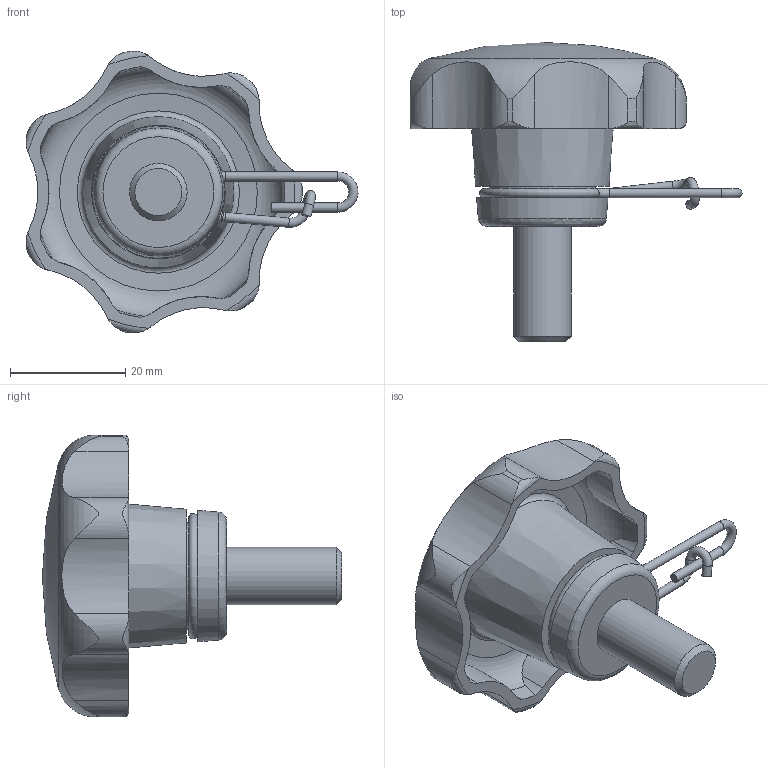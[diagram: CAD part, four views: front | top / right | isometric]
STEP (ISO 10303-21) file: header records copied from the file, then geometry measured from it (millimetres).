
FILE_DESCRIPTION( ( 'STEP AP203' ), '1' );
FILE_NAME( 'C:/Temp/Ganter_Step_05_03_2020/data/2_2/gn_6336_13/gn_6336_13_2/Star knob GN 6336.13-50-M10-20-A.stp', '2020-03-05T12:11:14', ( 'License CC BY-ND 4.0' ), ( 'CADENAS' ), ' ', 'PARTsolutions', ' ' );
FILE_SCHEMA( ( 'CONFIG_CONTROL_DESIGN' ) );
Length unit declared in the file: millimetre
Products named in the file (1): _Star knob GN 6336.13-50-M10-20-A
Bounding box: 57.69 x 52 x 49 mm (x, y, z)
Volume: 24147 mm3; surface area: 8964 mm2
Topology: 1 solids, 1 shells, 93 faces, 249 edges, 161 vertices
Faces by surface type: cylinder 53, torus 18, cone 11, plane 10, sphere 1
Full cylindrical faces by diameter (mm): 1.6 x6, 10 x1, 18.5 x1
Entity records: 3564 total; most frequent: CARTESIAN_POINT 1365, DIRECTION 444, ORIENTED_EDGE 438, EDGE_CURVE 219, AXIS2_PLACEMENT_3D 200, VERTEX_POINT 157, EDGE_LOOP 119, FACE_OUTER_BOUND 111
